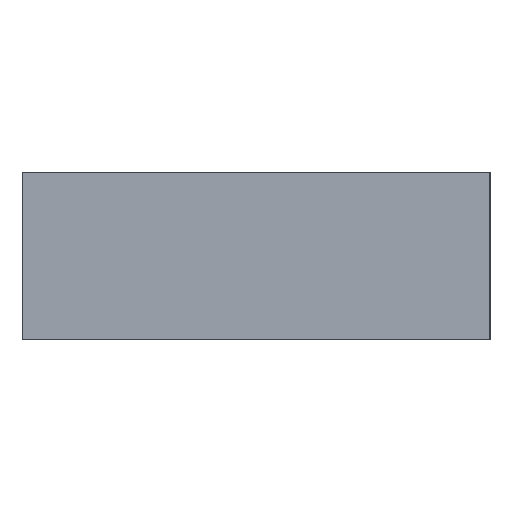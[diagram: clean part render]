
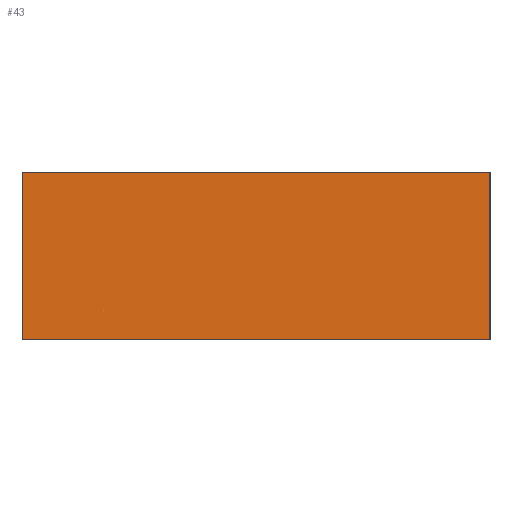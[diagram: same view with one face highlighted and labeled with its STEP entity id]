
A CAD part, left-side view. The second image highlights one B-rep face of the part: STEP entity #43.
In plain terms, the highlighted planar face has unit normal (-1, 0, 0).
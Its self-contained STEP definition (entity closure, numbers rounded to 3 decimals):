
#43 = ADVANCED_FACE('',(#44),#58,.F.);
#44 = FACE_BOUND('',#45,.F.);
#45 = EDGE_LOOP('',(#46,#81,#109,#137));
#46 = ORIENTED_EDGE('',*,*,#47,.F.);
#47 = EDGE_CURVE('',#48,#50,#52,.T.);
#48 = VERTEX_POINT('',#49);
#49 = CARTESIAN_POINT('',(-3.175,-1.525,0.));
#50 = VERTEX_POINT('',#51);
#51 = CARTESIAN_POINT('',(-3.175,-1.525,1.09));
#52 = SURFACE_CURVE('',#53,(#57,#69),.PCURVE_S1.);
#53 = LINE('',#54,#55);
#54 = CARTESIAN_POINT('',(-3.175,-1.525,0.));
#55 = VECTOR('',#56,1.);
#56 = DIRECTION('',(0.,0.,1.));
#57 = PCURVE('',#58,#63);
#58 = PLANE('',#59);
#59 = AXIS2_PLACEMENT_3D('',#60,#61,#62);
#60 = CARTESIAN_POINT('',(-3.175,-1.525,0.));
#61 = DIRECTION('',(1.,0.,0.));
#62 = DIRECTION('',(0.,0.,1.));
#63 = DEFINITIONAL_REPRESENTATION('',(#64),#68);
#64 = LINE('',#65,#66);
#65 = CARTESIAN_POINT('',(0.,0.));
#66 = VECTOR('',#67,1.);
#67 = DIRECTION('',(1.,0.));
#68 = ( GEOMETRIC_REPRESENTATION_CONTEXT(2) 
PARAMETRIC_REPRESENTATION_CONTEXT() REPRESENTATION_CONTEXT('2D SPACE',''
  ) );
#69 = PCURVE('',#70,#75);
#70 = PLANE('',#71);
#71 = AXIS2_PLACEMENT_3D('',#72,#73,#74);
#72 = CARTESIAN_POINT('',(-3.175,-1.525,0.));
#73 = DIRECTION('',(0.,1.,0.));
#74 = DIRECTION('',(0.,0.,1.));
#75 = DEFINITIONAL_REPRESENTATION('',(#76),#80);
#76 = LINE('',#77,#78);
#77 = CARTESIAN_POINT('',(0.,0.));
#78 = VECTOR('',#79,1.);
#79 = DIRECTION('',(1.,0.));
#80 = ( GEOMETRIC_REPRESENTATION_CONTEXT(2) 
PARAMETRIC_REPRESENTATION_CONTEXT() REPRESENTATION_CONTEXT('2D SPACE',''
  ) );
#81 = ORIENTED_EDGE('',*,*,#82,.T.);
#82 = EDGE_CURVE('',#48,#83,#85,.T.);
#83 = VERTEX_POINT('',#84);
#84 = CARTESIAN_POINT('',(-3.175,1.525,0.));
#85 = SURFACE_CURVE('',#86,(#90,#97),.PCURVE_S1.);
#86 = LINE('',#87,#88);
#87 = CARTESIAN_POINT('',(-3.175,-1.525,0.));
#88 = VECTOR('',#89,1.);
#89 = DIRECTION('',(0.,1.,0.));
#90 = PCURVE('',#58,#91);
#91 = DEFINITIONAL_REPRESENTATION('',(#92),#96);
#92 = LINE('',#93,#94);
#93 = CARTESIAN_POINT('',(0.,0.));
#94 = VECTOR('',#95,1.);
#95 = DIRECTION('',(0.,-1.));
#96 = ( GEOMETRIC_REPRESENTATION_CONTEXT(2) 
PARAMETRIC_REPRESENTATION_CONTEXT() REPRESENTATION_CONTEXT('2D SPACE',''
  ) );
#97 = PCURVE('',#98,#103);
#98 = PLANE('',#99);
#99 = AXIS2_PLACEMENT_3D('',#100,#101,#102);
#100 = CARTESIAN_POINT('',(-3.175,-1.525,0.));
#101 = DIRECTION('',(0.,0.,1.));
#102 = DIRECTION('',(1.,0.,0.));
#103 = DEFINITIONAL_REPRESENTATION('',(#104),#108);
#104 = LINE('',#105,#106);
#105 = CARTESIAN_POINT('',(0.,0.));
#106 = VECTOR('',#107,1.);
#107 = DIRECTION('',(0.,1.));
#108 = ( GEOMETRIC_REPRESENTATION_CONTEXT(2) 
PARAMETRIC_REPRESENTATION_CONTEXT() REPRESENTATION_CONTEXT('2D SPACE',''
  ) );
#109 = ORIENTED_EDGE('',*,*,#110,.T.);
#110 = EDGE_CURVE('',#83,#111,#113,.T.);
#111 = VERTEX_POINT('',#112);
#112 = CARTESIAN_POINT('',(-3.175,1.525,1.09));
#113 = SURFACE_CURVE('',#114,(#118,#125),.PCURVE_S1.);
#114 = LINE('',#115,#116);
#115 = CARTESIAN_POINT('',(-3.175,1.525,0.));
#116 = VECTOR('',#117,1.);
#117 = DIRECTION('',(0.,0.,1.));
#118 = PCURVE('',#58,#119);
#119 = DEFINITIONAL_REPRESENTATION('',(#120),#124);
#120 = LINE('',#121,#122);
#121 = CARTESIAN_POINT('',(0.,-3.05));
#122 = VECTOR('',#123,1.);
#123 = DIRECTION('',(1.,0.));
#124 = ( GEOMETRIC_REPRESENTATION_CONTEXT(2) 
PARAMETRIC_REPRESENTATION_CONTEXT() REPRESENTATION_CONTEXT('2D SPACE',''
  ) );
#125 = PCURVE('',#126,#131);
#126 = PLANE('',#127);
#127 = AXIS2_PLACEMENT_3D('',#128,#129,#130);
#128 = CARTESIAN_POINT('',(-3.175,1.525,0.));
#129 = DIRECTION('',(0.,1.,0.));
#130 = DIRECTION('',(0.,0.,1.));
#131 = DEFINITIONAL_REPRESENTATION('',(#132),#136);
#132 = LINE('',#133,#134);
#133 = CARTESIAN_POINT('',(0.,0.));
#134 = VECTOR('',#135,1.);
#135 = DIRECTION('',(1.,0.));
#136 = ( GEOMETRIC_REPRESENTATION_CONTEXT(2) 
PARAMETRIC_REPRESENTATION_CONTEXT() REPRESENTATION_CONTEXT('2D SPACE',''
  ) );
#137 = ORIENTED_EDGE('',*,*,#138,.F.);
#138 = EDGE_CURVE('',#50,#111,#139,.T.);
#139 = SURFACE_CURVE('',#140,(#144,#151),.PCURVE_S1.);
#140 = LINE('',#141,#142);
#141 = CARTESIAN_POINT('',(-3.175,-1.525,1.09));
#142 = VECTOR('',#143,1.);
#143 = DIRECTION('',(0.,1.,0.));
#144 = PCURVE('',#58,#145);
#145 = DEFINITIONAL_REPRESENTATION('',(#146),#150);
#146 = LINE('',#147,#148);
#147 = CARTESIAN_POINT('',(1.09,0.));
#148 = VECTOR('',#149,1.);
#149 = DIRECTION('',(0.,-1.));
#150 = ( GEOMETRIC_REPRESENTATION_CONTEXT(2) 
PARAMETRIC_REPRESENTATION_CONTEXT() REPRESENTATION_CONTEXT('2D SPACE',''
  ) );
#151 = PCURVE('',#152,#157);
#152 = PLANE('',#153);
#153 = AXIS2_PLACEMENT_3D('',#154,#155,#156);
#154 = CARTESIAN_POINT('',(-3.175,-1.525,1.09));
#155 = DIRECTION('',(0.,0.,1.));
#156 = DIRECTION('',(1.,0.,0.));
#157 = DEFINITIONAL_REPRESENTATION('',(#158),#162);
#158 = LINE('',#159,#160);
#159 = CARTESIAN_POINT('',(0.,0.));
#160 = VECTOR('',#161,1.);
#161 = DIRECTION('',(0.,1.));
#162 = ( GEOMETRIC_REPRESENTATION_CONTEXT(2) 
PARAMETRIC_REPRESENTATION_CONTEXT() REPRESENTATION_CONTEXT('2D SPACE',''
  ) );
